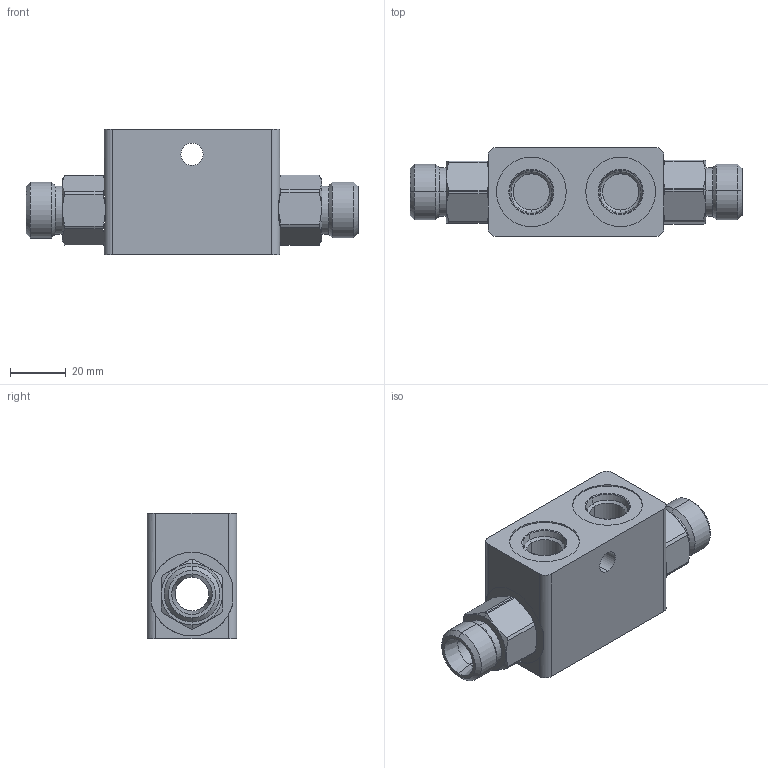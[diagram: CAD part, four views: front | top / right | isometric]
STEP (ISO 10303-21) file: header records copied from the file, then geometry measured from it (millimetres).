
FILE_DESCRIPTION (( 'STEP AP214' ), '1' );
FILE_NAME ('VRP91603.STEP', '2025-06-03T01:25:56', ( '' ), ( '' ), 'SwSTEP 2.0', 'SolidWorks 2023', '' );
FILE_SCHEMA (( 'AUTOMOTIVE_DESIGN' ));
Length unit declared in the file: millimetre
Products named in the file (1): VRP91603
Bounding box: 119 x 32 x 45 mm (x, y, z)
Surface area: 18996.8 mm2 (no closed solid volume)
Topology: 0 solids, 3 shells, 102 faces, 256 edges, 162 vertices
Faces by surface type: cylinder 46, plane 28, cone 24, torus 4
Entity records: 3322 total; most frequent: CARTESIAN_POINT 841, DIRECTION 556, ORIENTED_EDGE 474, EDGE_CURVE 256, AXIS2_PLACEMENT_3D 229, VERTEX_POINT 162, CIRCLE 126, EDGE_LOOP 114
